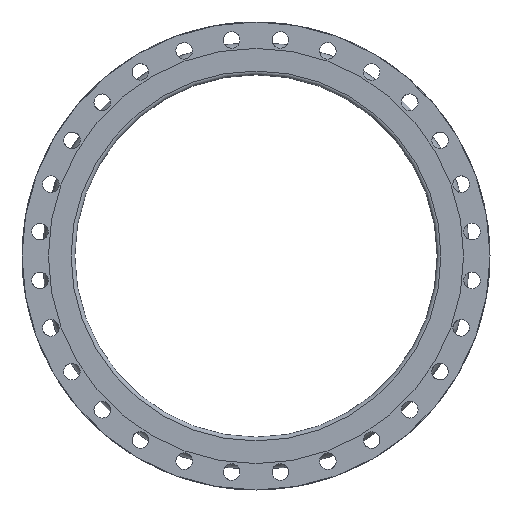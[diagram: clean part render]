
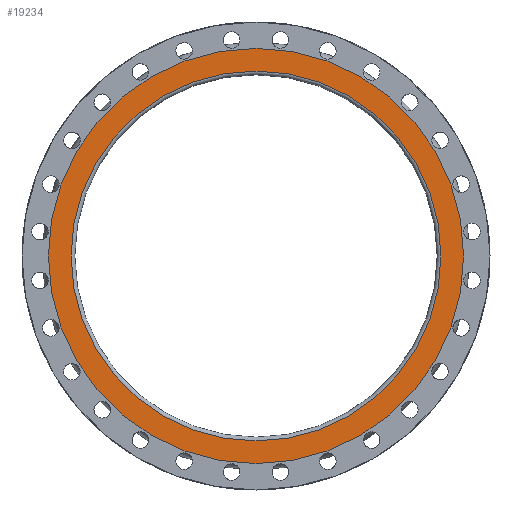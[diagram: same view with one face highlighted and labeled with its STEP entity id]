
A CAD part, left-side view. The second image highlights one B-rep face of the part: STEP entity #19234.
In plain terms, the highlighted planar face has unit normal (-1, 0, 0).
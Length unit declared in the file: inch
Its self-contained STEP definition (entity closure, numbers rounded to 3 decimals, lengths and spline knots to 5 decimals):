
#2407=PLANE('',#20456);
#2891=FACE_BOUND('',#4511,.T.);
#3249=FACE_OUTER_BOUND('',#4510,.T.);
#4510=EDGE_LOOP('',(#12194));
#4511=EDGE_LOOP('',(#12195));
#5857=CIRCLE('',#20387,17.1875);
#5891=CIRCLE('',#20455,15.3125);
#7377=VERTEX_POINT('',#29357);
#7411=VERTEX_POINT('',#29459);
#9289=EDGE_CURVE('',#7377,#7377,#5857,.T.);
#9323=EDGE_CURVE('',#7411,#7411,#5891,.T.);
#12194=ORIENTED_EDGE('',*,*,#9289,.F.);
#12195=ORIENTED_EDGE('',*,*,#9323,.T.);
#19234=ADVANCED_FACE('',(#3249,#2891),#2407,.T.);
#20387=AXIS2_PLACEMENT_3D('',#29358,#23137,#23138);
#20455=AXIS2_PLACEMENT_3D('',#29460,#23273,#23274);
#20456=AXIS2_PLACEMENT_3D('',#29461,#23275,#23276);
#23137=DIRECTION('center_axis',(1.,0.,0.));
#23138=DIRECTION('ref_axis',(0.,0.,-1.));
#23273=DIRECTION('center_axis',(1.,0.,0.));
#23274=DIRECTION('ref_axis',(0.,0.,-1.));
#23275=DIRECTION('center_axis',(-1.,0.,0.));
#23276=DIRECTION('ref_axis',(0.,0.,1.));
#29357=CARTESIAN_POINT('',(-7.,17.1875,0.));
#29358=CARTESIAN_POINT('Origin',(-7.,0.,0.));
#29459=CARTESIAN_POINT('',(-7.,15.3125,0.));
#29460=CARTESIAN_POINT('Origin',(-7.,0.,0.));
#29461=CARTESIAN_POINT('Origin',(-7.,17.1875,0.));
